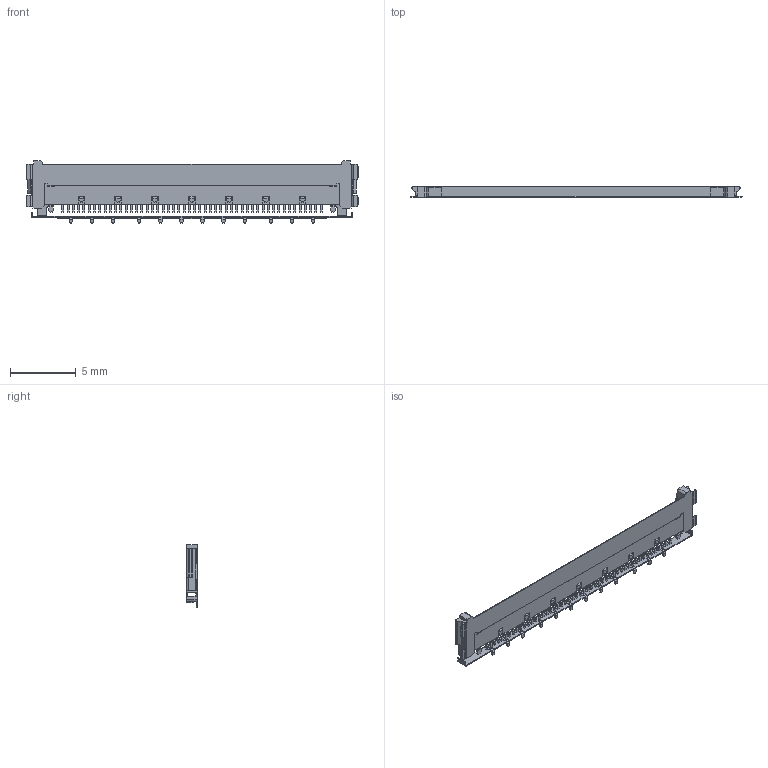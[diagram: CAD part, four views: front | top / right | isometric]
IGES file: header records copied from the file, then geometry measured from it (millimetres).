
Start section: SolidWorks IGES file using analytic representation for surfaces
Global section: file name: C:\3dworks\‘C‰i\CAII 20,40,50 3D DATA\RECE\50P\50P RECE STEP IGES.IGS; native system: SolidWorks 2014; preprocessor: SolidWorks 2014; author: ieng2-005; date: 161116.204043; units: millimetre
Bounding box: 25.2 x 0.82 x 4.73 mm (x, y, z)
Surface area: 289.5 mm2 (no closed solid volume)
Topology: 0 solids, 0 shells, 1489 faces, 9862 edges, 9862 vertices
Faces by surface type: bspline 1075, revolution 414
